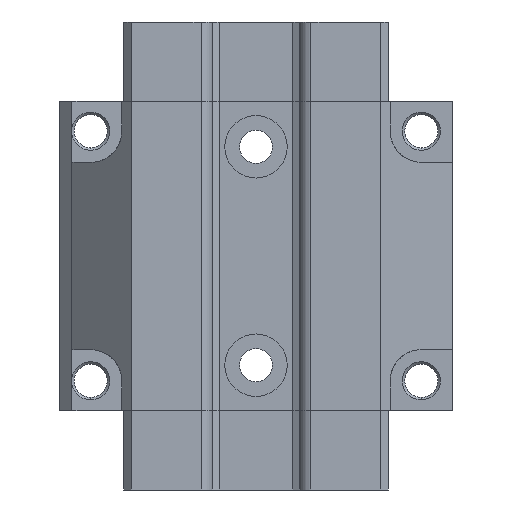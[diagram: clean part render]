
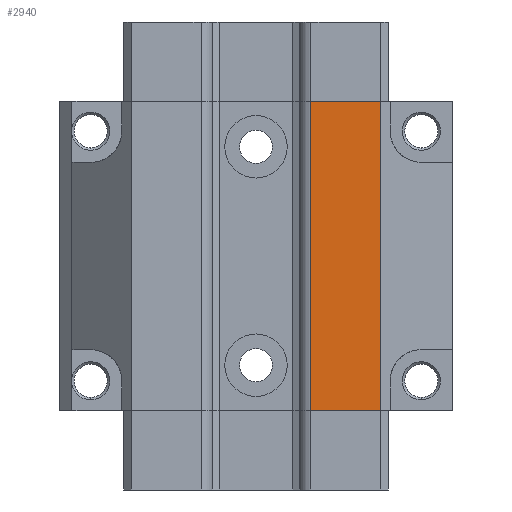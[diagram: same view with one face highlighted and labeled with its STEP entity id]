
A CAD part, front view. The second image highlights one B-rep face of the part: STEP entity #2940.
In plain terms, the highlighted planar face has unit normal (0, -1, 0).
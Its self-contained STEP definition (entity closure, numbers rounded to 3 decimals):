
#2940 = ADVANCED_FACE ( 'NONE', ( #5679 ), #5677, .F. ) ;
#2941 = EDGE_LOOP ( 'NONE', ( #2942, #3131, #3060, #3063 ) ) ;
#2942 = ORIENTED_EDGE ( 'NONE', *, *, #2943, .F. ) ;
#2943 = EDGE_CURVE ( 'NONE', #2944, #2945, #5678, .T. ) ;
#2944 = VERTEX_POINT ( 'NONE', #5833 ) ;
#2945 = VERTEX_POINT ( 'NONE', #5832 ) ;
#3059 = EDGE_CURVE ( 'NONE', #3130, #2944, #6127, .T. ) ;
#3060 = ORIENTED_EDGE ( 'NONE', *, *, #3061, .T. ) ;
#3061 = EDGE_CURVE ( 'NONE', #3130, #3062, #6123, .T. ) ;
#3062 = VERTEX_POINT ( 'NONE', #6119 ) ;
#3063 = ORIENTED_EDGE ( 'NONE', *, *, #3064, .F. ) ;
#3064 = EDGE_CURVE ( 'NONE', #2945, #3062, #6118, .T. ) ;
#3130 = VERTEX_POINT ( 'NONE', #6302 ) ;
#3131 = ORIENTED_EDGE ( 'NONE', *, *, #3059, .F. ) ;
#5673 = DIRECTION ( 'NONE',  ( 0., 0., 1. ) ) ;
#5674 = DIRECTION ( 'NONE',  ( 0., 1., 0. ) ) ;
#5675 = CARTESIAN_POINT ( 'NONE',  ( -20., -12.675, 24.8 ) ) ;
#5676 = AXIS2_PLACEMENT_3D ( 'NONE', #5675, #5674, #5673 ) ;
#5677 = PLANE ( 'NONE',  #5676 ) ;
#5678 = LINE ( 'NONE', #5836, #5835 ) ;
#5679 = FACE_OUTER_BOUND ( 'NONE', #2941, .T. ) ;
#5832 = CARTESIAN_POINT ( 'NONE',  ( 20., -12.675, 24.8 ) ) ;
#5833 = CARTESIAN_POINT ( 'NONE',  ( 8.8, -12.675, 24.8 ) ) ;
#5834 = DIRECTION ( 'NONE',  ( 1., 0., 0. ) ) ;
#5835 = VECTOR ( 'NONE', #5834, 1000. ) ;
#5836 = CARTESIAN_POINT ( 'NONE',  ( -20., -12.675, 24.8 ) ) ;
#6115 = DIRECTION ( 'NONE',  ( 0., 0., -1. ) ) ;
#6116 = VECTOR ( 'NONE', #6115, 1000. ) ;
#6117 = CARTESIAN_POINT ( 'NONE',  ( 20., -12.675, 24.8 ) ) ;
#6118 = LINE ( 'NONE', #6117, #6116 ) ;
#6119 = CARTESIAN_POINT ( 'NONE',  ( 20., -12.675, -24.8 ) ) ;
#6120 = DIRECTION ( 'NONE',  ( 1., 0., 0. ) ) ;
#6121 = VECTOR ( 'NONE', #6120, 1000. ) ;
#6122 = CARTESIAN_POINT ( 'NONE',  ( -20., -12.675, -24.8 ) ) ;
#6123 = LINE ( 'NONE', #6122, #6121 ) ;
#6124 = DIRECTION ( 'NONE',  ( 0., 0., 1. ) ) ;
#6125 = VECTOR ( 'NONE', #6124, 1000. ) ;
#6126 = CARTESIAN_POINT ( 'NONE',  ( 8.8, -12.675, -37.5 ) ) ;
#6127 = LINE ( 'NONE', #6126, #6125 ) ;
#6302 = CARTESIAN_POINT ( 'NONE',  ( 8.8, -12.675, -24.8 ) ) ;
